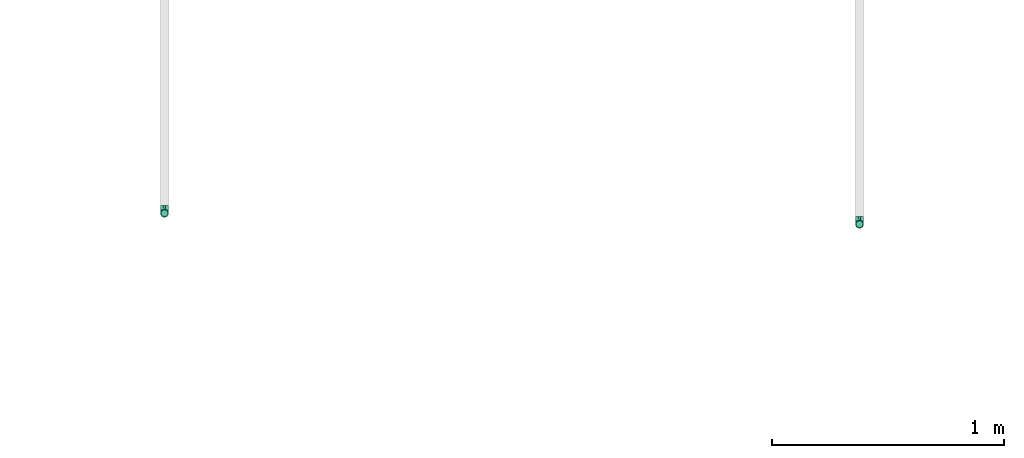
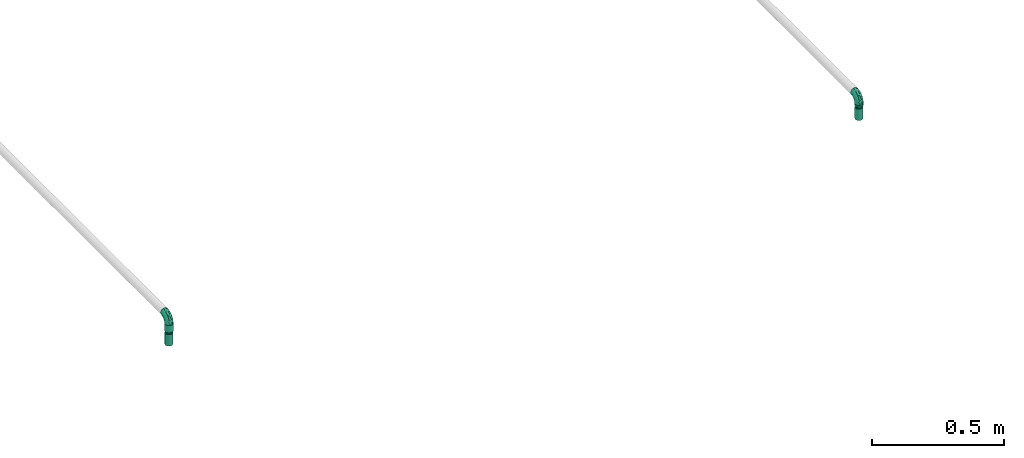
# One storey, part 13 of 32: 4 flow fittings, 2 flow segments, 2 flow terminals.
"""IFC2X3 building model written with IfcOpenShell, lengths in millimetres."""

from ifc_helpers import new_model, entity, si_unit, converted_unit, derived_unit, direction, frame, origin_with_axes, origin_2d_with_axis, place, context, subcontext, project, spatial, hollow_circle, extrude, open_shell, surface_model, source, transform, mapped, type_object, element, save


model = new_model("IFC2X3")

# Units and contexts
model_context = context("Model", 3, precision=0.01, world=frame((0.0, 4.29681676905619e-09, 0.0)), true_north=direction((4.01073788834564e-13, 1.0)))
plan_context = context("Plan", 3, precision=0.01, world=frame((0.0, 4.29681676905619e-09, 0.0)), true_north=direction((4.01073788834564e-13, 1.0)))
body_context = subcontext(model_context, "Body", "Model", "MODEL_VIEW")
ifc_project = project(units=[converted_unit("PLANEANGLEUNIT", "DEGREE", entity("IfcPositiveLengthMeasure", 0.0174532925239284), si_unit("PLANEANGLEUNIT", "RADIAN"), dimensions=[0, 0, 0, 0, 0, 0, 0]), si_unit("AREAUNIT", "SQUARE_METRE"), si_unit("LENGTHUNIT", "METRE", prefix="MILLI"), si_unit("MASSUNIT", "GRAM", prefix="KILO"), si_unit("POWERUNIT", "WATT"), si_unit("PRESSUREUNIT", "PASCAL", prefix="KILO"), si_unit("FORCEUNIT", "NEWTON", prefix="KILO"), si_unit("ELECTRICVOLTAGEUNIT", "VOLT"), si_unit("ELECTRICCURRENTUNIT", "AMPERE"), si_unit("THERMODYNAMICTEMPERATUREUNIT", "DEGREE_CELSIUS"), si_unit("TIMEUNIT", "SECOND"), si_unit("VOLUMEUNIT", "CUBIC_METRE"), derived_unit("LINEARVELOCITYUNIT", [(si_unit("LENGTHUNIT", "METRE"), 1), (si_unit("TIMEUNIT", "SECOND"), -1)]), derived_unit("VOLUMETRICFLOWRATEUNIT", [(si_unit("VOLUMEUNIT", "CUBIC_METRE"), 1), (si_unit("TIMEUNIT", "SECOND"), -1)]), derived_unit("THERMALTRANSMITTANCEUNIT", [(si_unit("POWERUNIT", "WATT"), 1), (si_unit("THERMODYNAMICTEMPERATUREUNIT", "KELVIN"), -1), (si_unit("AREAUNIT", "SQUARE_METRE"), -1)]), derived_unit("SOUNDPRESSUREUNIT", [(si_unit("PRESSUREUNIT", "PASCAL"), 1)])], contexts=[model_context, plan_context])

# Site, building, storey
site_placement = place(None, frame((0.0, -4.29681676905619e-09, 0.0), z_axis=(0.0, 0.0, 1.0), x_axis=(1.0, 0.0, 0.0)))
site = spatial("IfcSite", under=ifc_project, at=site_placement, CompositionType="ELEMENT")
building_placement = place(site_placement, frame((0.0, 4.29681676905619e-09, 0.0), z_axis=(0.0, 0.0, 1.0), x_axis=(1.0, 0.0, 0.0)))
building = spatial("IfcBuilding", under=site, at=building_placement, Name="mc-building", CompositionType="ELEMENT")
storey_placement = place(building_placement, frame((0.0, 0.0, 205200.0), z_axis=(0.0, 0.0, 1.0), x_axis=(1.0, 0.0, 0.0)))
storey = spatial("IfcBuildingStorey", under=building, at=storey_placement, Name="Nivå D + 1,2 m", CompositionType="ELEMENT", Elevation=205200.0)

# Flow fittings
pipe_fitting_type_1 = type_object("IfcPipeFittingType", Name="magi_pipe_fe_elbow_short_001", PredefinedType="BEND")
shared_shape_1 = source(origin_with_axes(), body_context, "Body", "SurfaceModel", [
    surface_model("IfcShellBasedSurfaceModel", [(-33.8, -11.9501, -11.9501), (-33.8, -14.63583, -8.45), (-33.8, -8.45, -14.63583), (-33.8, 0.0, -16.9), (-33.8, -4.37404, -16.32415), (-33.8, -16.32415, -4.37404), (-33.8, -16.9, 0.0), (-33.8, 11.9501, 11.9501), (-33.8, 14.63583, 8.45), (-33.8, 8.45, 14.63583), (-33.8, -11.9501, 11.9501), (-33.8, -8.45, 14.63583), (-33.8, -14.63583, 8.45), (-33.8, -16.32415, 4.37404), (-33.8, -4.37404, 16.32415), (-33.8, 0.0, 16.9), (-33.8, 16.9, 0.0), (-33.8, 16.32415, -4.37404), (-33.8, 16.32415, 4.37404), (-33.8, 4.37404, -16.32415), (-33.8, 8.45, -14.63583), (-33.8, 14.63583, -8.45), (-33.8, 11.9501, -11.9501), (-33.8, 4.37404, 16.32415), (-4.37404, 33.8, -16.32415), (16.9, 33.8, 0.0), (0.0, 33.8, -16.9), (-16.32415, 33.8, -4.37404), (-8.45, 33.8, -14.63583), (-14.63583, 33.8, -8.45), (-11.9501, 33.8, -11.9501), (16.32415, 33.8, 4.37404), (8.45, 33.8, -14.63583), (14.63583, 33.8, -8.45), (11.9501, 33.8, -11.9501), (4.37404, 33.8, -16.32415), (16.32415, 33.8, -4.37404), (-16.32415, 33.8, 4.37404), (-4.37404, 33.8, 16.32415), (-14.63583, 33.8, 8.45), (-8.45, 33.8, 14.63583), (-11.9501, 33.8, 11.9501), (14.63583, 33.8, 8.45), (8.45, 33.8, 14.63583), (11.9501, 33.8, 11.9501), (0.0, 33.8, 16.9), (4.37404, 33.8, 16.32415), (-16.9, 33.8, 0.0), (-24.79389, -13.12945, 9.48721), (-22.19287, -9.75018, 12.59315), (-24.09897, -14.97035, 0.0), (-14.93934, -10.76256, 8.5297), (-22.46095, -14.75051, 5.27077), (14.75051, 22.46094, 5.27077), (11.9251, 13.23888, 4.33236), (13.04069, 14.39795, 0.0), (7.71387, 13.68847, 11.55891), (9.75018, 22.19287, 12.59315), (4.10169, 13.0571, 14.04018), (-24.84007, -6.39063, 15.2048), (-25.81779, -2.23879, 16.61097), (-23.66549, 2.59054, 16.87119), (-26.50418, 14.06512, 11.08152), (-24.21253, 17.66365, 7.72657), (-29.58514, 15.86957, 7.00283), (-6.17382, -7.5455, 0.0), (-13.23888, -11.9251, 4.33236), (-14.39795, -13.04069, 0.0), (-17.81434, 18.87373, 11.97104), (-6.30846, 29.15138, 15.82987), (-2.31622, 25.28002, 16.85849), (-29.23923, 10.23435, 13.77053), (-1.45439, -2.85688, 7.61475), (-0.28326, 0.34872, 10.09509), (-5.74484, -4.04709, 10.4122), (-4.41137, 11.31918, 16.59407), (-8.39727, 3.10034, 15.7812), (-1.72649, 9.1306, 15.53089), (-17.39909, 24.75344, 7.64977), (-26.19233, 20.0512, 0.0), (-28.14518, 17.29657, 4.25857), (-26.05147, 6.6281, 15.96447), (-5.87354, 16.61944, 16.86968), (-12.51807, 12.51807, 16.48937), (-10.06312, 7.38516, 16.81295), (-3.01882, 3.01882, 13.81718), (-13.0571, -4.10169, 14.04018), (-16.82553, -0.15166, 16.38038), (10.76256, 14.93934, 8.5297), (13.12945, 24.79389, 9.48721), (6.39063, 24.84007, 15.2048), (2.23879, 25.81779, 16.61097), (-13.68847, -7.71387, 11.55891), (14.97035, 24.09897, 0.0), (-7.30894, 22.89991, 16.09489), (-10.67958, 26.17414, 14.008), (-12.78295, 18.26924, 15.06066), (-13.88562, 22.45231, 12.93244), (-18.04944, 15.16501, 14.04434), (-23.11658, 20.08178, 4.02986), (-21.84989, 21.84989, 0.0), (-18.55817, 25.48277, 3.93065), (-13.95142, 26.94732, 11.03289), (-18.57098, 7.23906, 16.59756), (-16.58335, 4.14122, 16.89279), (-17.96666, 11.46709, 15.63151), (-9.84453, 17.54304, 16.18938), (0.15166, 16.82553, 16.38038), (-23.27207, 11.47201, 14.23154), (3.84842, 5.86994, 10.70473), (-8.0212, -7.54413, 7.93275), (1.00345, -2.19508, 4.57414), (5.13203, 3.01004, 5.90201), (5.24161, 1.7543, 2.53265), (8.70457, 7.04947, 3.99182), (-20.0512, 26.19233, 0.0), (8.4852, 8.76699, 7.09296), (-4.55488, -6.72064, 4.90681), (2.05031, -2.05031, 0.0), (7.5455, 6.17382, 0.0), (-26.75399, 2.1369, -16.845), (-14.61995, 24.73803, -11.27736), (-28.45274, -13.45335, -9.81895), (-26.00469, 6.63555, -15.96645), (-23.06726, 20.04573, -4.26202), (-13.80647, -4.26506, -14.17873), (-14.67501, -0.21081, -16.07388), (-6.7902, -0.2828, -13.8478), (-24.53586, 11.08096, -14.13417), (-26.72048, 14.00837, -11.05776), (10.0967, 24.44989, -12.75976), (5.83237, 21.40218, -15.03047), (6.66249, 28.54238, -15.38093), (-20.38182, 15.48705, -12.74596), (12.53268, 21.23441, -9.15363), (12.54494, 15.67504, -5.54878), (9.7522, 12.89279, -8.66343), (-15.65186, 19.64213, -13.01327), (-12.03528, 20.66498, -14.67665), (-15.61907, 15.61906, -14.83879), (-25.56551, -15.26206, 0.0), (-24.65452, -15.12934, -5.50955), (13.45335, 28.45274, -9.81895), (15.12934, 24.65452, -5.50955), (-7.35442, -8.31014, -5.65563), (-15.67504, -12.54494, -5.54878), (-24.44989, -10.0967, -12.75976), (0.16522, 0.41303, -9.71728), (-5.70658, -5.33066, -8.89288), (-5.13869, -2.37198, -11.53565), (-21.23441, -12.53268, -9.15363), (0.71146, 7.93863, -14.09382), (0.21081, 14.67501, -16.07388), (3.49291, 14.42772, -14.76381), (-24.89911, -2.13088, -16.591), (-28.54238, -6.66249, -15.38093), (-18.44386, -7.71663, -13.26957), (2.13088, 24.89911, -16.591), (-28.64342, 17.44413, -2.89318), (1.70017, -1.28722, -5.09504), (-16.57067, 26.81947, -7.36596), (-17.69055, 27.4263, -3.76405), (-12.89279, -9.7522, -8.66343), (-5.96611, 5.96611, -15.95814), (-20.53709, 20.09345, -8.28985), (-2.1369, 26.75399, -16.845), (-6.89872, 24.58781, -16.02578), (-10.60739, 26.53157, -13.98044), (-21.40218, -5.83237, -15.03047), (2.93192, 5.89627, -11.55917), (6.89393, 12.61842, -11.82233), (5.58056, 5.95325, -8.79455), (-3.99512, 18.61798, -16.89635), (8.31014, 7.35442, -5.65563), (-9.1383, 9.86148, -16.89041), (-9.99983, 16.02119, -16.39699), (-16.68576, 9.78031, -16.34199), (-27.01915, 16.61158, -7.12979), (15.26206, 25.56551, 0.0), (-18.61798, 3.99512, -16.89635), (-19.37495, 27.82495, 0.0), (-12.61842, -6.89393, -11.82233), (-18.84705, 19.14018, -10.96545)], [open_shell([[[0, 1, 2]], [[3, 4, 2]], [[5, 6, 1]], [[7, 8, 9]], [[10, 11, 12]], [[13, 12, 11]], [[14, 15, 11]], [[16, 17, 18]], [[3, 6, 19]], [[20, 19, 17]], [[20, 17, 21]], [[22, 20, 21]], [[17, 19, 6]], [[2, 1, 6]], [[2, 6, 3]], [[6, 18, 17]], [[23, 18, 6]], [[8, 18, 23]], [[8, 23, 9]], [[13, 23, 6]], [[23, 13, 11]], [[11, 15, 23]], [[24, 25, 26]], [[27, 24, 28]], [[29, 27, 28]], [[29, 28, 30]], [[31, 25, 24]], [[32, 33, 34]], [[32, 35, 26]], [[33, 25, 36]], [[33, 32, 26]], [[25, 33, 26]], [[24, 27, 37]], [[31, 24, 37]], [[38, 37, 39]], [[40, 38, 39]], [[40, 39, 41]], [[31, 37, 38]], [[42, 43, 44]], [[43, 42, 31]], [[43, 45, 46]], [[43, 31, 38]], [[38, 45, 43]], [[37, 27, 47]], [[10, 48, 49]], [[13, 6, 50]], [[51, 48, 52]], [[53, 54, 55]], [[48, 10, 12]], [[13, 52, 12]], [[56, 57, 58]], [[49, 11, 10]], [[49, 59, 11]], [[15, 60, 61]], [[62, 63, 64]], [[65, 66, 67]], [[57, 44, 43]], [[62, 68, 63]], [[38, 69, 70]], [[9, 71, 7]], [[14, 60, 15]], [[72, 73, 74]], [[75, 76, 77]], [[7, 62, 8]], [[39, 37, 78]], [[79, 16, 80]], [[64, 18, 8]], [[15, 61, 23]], [[23, 81, 9]], [[82, 83, 84]], [[74, 85, 86]], [[59, 86, 87]], [[88, 89, 57]], [[90, 43, 46]], [[42, 53, 31]], [[46, 45, 91]], [[54, 53, 88]], [[42, 89, 53]], [[92, 86, 49]], [[89, 42, 44]], [[11, 59, 14]], [[53, 55, 93]], [[93, 31, 53]], [[66, 52, 67]], [[94, 82, 70]], [[95, 96, 94]], [[97, 98, 96]], [[79, 99, 100]], [[40, 41, 95]], [[101, 100, 99]], [[68, 78, 63]], [[38, 40, 69]], [[16, 18, 80]], [[95, 94, 69]], [[78, 101, 99]], [[41, 102, 95]], [[70, 45, 38]], [[97, 95, 102]], [[13, 50, 52]], [[90, 57, 43]], [[57, 90, 58]], [[81, 23, 61]], [[103, 104, 84]], [[105, 81, 103]], [[41, 39, 102]], [[106, 96, 83]], [[94, 106, 82]], [[91, 70, 107]], [[71, 62, 7]], [[62, 108, 98]], [[86, 59, 49]], [[67, 52, 50]], [[60, 59, 87]], [[92, 49, 51]], [[86, 85, 76]], [[91, 90, 46]], [[25, 31, 93]], [[107, 77, 58]], [[107, 58, 90]], [[58, 85, 109]], [[110, 74, 92]], [[72, 74, 110]], [[66, 51, 52]], [[72, 111, 112]], [[113, 114, 112]], [[56, 88, 57]], [[52, 48, 12]], [[49, 48, 51]], [[57, 89, 44]], [[53, 89, 88]], [[103, 81, 61]], [[71, 81, 108]], [[18, 64, 80]], [[63, 78, 99]], [[47, 115, 101]], [[101, 115, 100]], [[39, 78, 102]], [[68, 102, 78]], [[97, 96, 95]], [[105, 98, 108]], [[103, 84, 83]], [[107, 70, 82]], [[76, 84, 87]], [[82, 84, 75]], [[70, 91, 45]], [[90, 91, 107]], [[59, 60, 14]], [[61, 60, 87]], [[73, 85, 74]], [[109, 112, 116]], [[103, 61, 104]], [[105, 103, 83]], [[96, 105, 83]], [[81, 105, 108]], [[96, 98, 105]], [[62, 98, 68]], [[61, 87, 104]], [[87, 84, 104]], [[86, 76, 87]], [[77, 76, 85]], [[58, 77, 85]], [[75, 77, 107]], [[82, 75, 107]], [[76, 75, 84]], [[81, 71, 9]], [[62, 71, 108]], [[95, 69, 40]], [[70, 69, 94]], [[62, 64, 8]], [[80, 63, 99]], [[63, 80, 64]], [[80, 99, 79]], [[66, 65, 117]], [[110, 66, 117]], [[112, 114, 116]], [[118, 117, 65]], [[110, 92, 51]], [[112, 111, 113]], [[119, 55, 54]], [[74, 86, 92]], [[58, 109, 56]], [[116, 56, 109]], [[66, 110, 51]], [[72, 110, 117]], [[111, 72, 117]], [[73, 112, 109]], [[117, 118, 111]], [[113, 111, 118]], [[118, 119, 113]], [[114, 119, 54]], [[119, 114, 113]], [[116, 54, 88]], [[54, 116, 114]], [[116, 88, 56]], [[112, 73, 72]], [[85, 73, 109]], [[78, 37, 101]], [[47, 101, 37]], [[102, 68, 97]], [[97, 68, 98]], [[82, 106, 83]], [[94, 96, 106]], [[19, 120, 3]], [[29, 30, 121]], [[0, 122, 1]], [[20, 123, 19]], [[100, 124, 79]], [[125, 126, 127]], [[128, 22, 129]], [[130, 131, 132]], [[128, 129, 133]], [[134, 135, 136]], [[137, 138, 139]], [[128, 20, 22]], [[67, 140, 141]], [[134, 142, 143]], [[141, 5, 1]], [[144, 65, 145]], [[146, 0, 2]], [[147, 148, 149]], [[145, 141, 150]], [[151, 152, 153]], [[154, 4, 3]], [[2, 155, 146]], [[150, 146, 156]], [[155, 2, 4]], [[143, 135, 134]], [[35, 157, 26]], [[16, 79, 158]], [[148, 159, 144]], [[160, 161, 27]], [[145, 162, 144]], [[163, 152, 151]], [[27, 29, 160]], [[121, 164, 160]], [[32, 34, 130]], [[26, 165, 24]], [[24, 165, 166]], [[142, 34, 33]], [[30, 28, 167]], [[124, 161, 164]], [[157, 35, 132]], [[155, 154, 168]], [[123, 20, 128]], [[169, 170, 171]], [[172, 157, 152]], [[24, 166, 28]], [[132, 35, 32]], [[142, 130, 34]], [[168, 154, 126]], [[136, 135, 173]], [[133, 137, 139]], [[22, 21, 129]], [[170, 131, 130]], [[33, 36, 143]], [[172, 174, 175]], [[176, 123, 128]], [[158, 177, 17]], [[135, 55, 119]], [[167, 28, 166]], [[175, 166, 172]], [[137, 167, 138]], [[122, 141, 1]], [[140, 6, 5]], [[36, 25, 178]], [[170, 130, 134]], [[152, 157, 131]], [[165, 157, 172]], [[153, 170, 151]], [[152, 163, 174]], [[168, 125, 156]], [[122, 146, 150]], [[120, 154, 3]], [[179, 174, 126]], [[179, 126, 154]], [[126, 163, 127]], [[162, 145, 150]], [[140, 5, 141]], [[36, 178, 143]], [[55, 143, 178]], [[177, 129, 21]], [[128, 133, 139]], [[176, 128, 139]], [[120, 123, 179]], [[121, 160, 29]], [[161, 100, 180]], [[166, 175, 138]], [[121, 30, 167]], [[161, 47, 27]], [[79, 124, 158]], [[124, 164, 177]], [[161, 124, 100]], [[136, 171, 170]], [[127, 163, 151]], [[147, 171, 159]], [[148, 144, 162]], [[127, 151, 169]], [[127, 181, 125]], [[129, 177, 164]], [[21, 17, 177]], [[159, 65, 144]], [[67, 141, 145]], [[143, 55, 135]], [[135, 119, 173]], [[123, 120, 19]], [[154, 120, 179]], [[157, 165, 26]], [[166, 165, 172]], [[172, 152, 174]], [[176, 139, 175]], [[126, 174, 163]], [[176, 174, 179]], [[174, 176, 175]], [[123, 176, 179]], [[150, 181, 162]], [[127, 149, 181]], [[181, 148, 162]], [[159, 148, 147]], [[171, 136, 173]], [[170, 134, 136]], [[159, 171, 173]], [[171, 147, 169]], [[169, 147, 149]], [[151, 170, 169]], [[164, 182, 129]], [[182, 121, 137]], [[181, 149, 148]], [[169, 149, 127]], [[182, 137, 133]], [[167, 137, 121]], [[166, 138, 167]], [[175, 139, 138]], [[129, 182, 133]], [[121, 182, 164]], [[161, 160, 164]], [[47, 161, 180]], [[177, 158, 124]], [[16, 158, 17]], [[130, 132, 32]], [[157, 132, 131]], [[143, 142, 33]], [[130, 142, 134]], [[154, 155, 4]], [[146, 155, 168]], [[146, 122, 0]], [[141, 122, 150]], [[152, 131, 153]], [[159, 119, 118]], [[67, 145, 65]], [[170, 153, 131]], [[119, 159, 173]], [[159, 118, 65]], [[156, 125, 181]], [[126, 125, 168]], [[150, 156, 181]], [[168, 156, 146]]])]),
])
for number, where, z_axis, x_axis, name in (
    (1, (335492.5, 460325.93146, 4444.43145999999), (1.0, 0.0, 0.0), (0.0, -1.0, 0.0), "magi_pipe_fe_elbow_short_001"),
    (2, (332502.5, 460373.43146, 4444.43145999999), (1.0, 0.0, 0.0), (0.0, -1.0, 0.0), "magi_pipe_fe_elbow_short_001"),
):
    element("IfcFlowFitting", number, at=place(storey_placement, frame(where, z_axis=z_axis, x_axis=x_axis)), inside=storey, type_object=pipe_fitting_type_1, Name=name, context=body_context, shape_type="MappedRepresentation", body=[
        mapped(shared_shape_1, transform((0.0, 0.0, 0.0), scale=1.0)),
    ])
pipe_fitting_type_2 = type_object("IfcPipeFittingType", Name="magi_pipe_fe_reducer_centric_short_001", PredefinedType="TRANSITION")
shared_shape_2 = source(origin_with_axes(), body_context, "Body", "SurfaceModel", [
    surface_model("IfcShellBasedSurfaceModel", [(-2.0, 11.9501, 11.9501), (-2.0, 0.0, 16.9), (-2.0, 4.37404, 16.32415), (-2.0, 8.45, 14.63583), (-2.0, 14.63583, 8.45), (-2.0, 16.32415, 4.37404), (-2.0, -16.32415, 4.37404), (-2.0, -8.45, 14.63583), (-2.0, -14.63583, 8.45), (-2.0, -11.9501, 11.9501), (-2.0, -4.37404, 16.32415), (-2.0, -16.32415, -4.37404), (-2.0, -16.9, 0.0), (-2.0, -8.45, -14.63583), (-2.0, 16.32415, -4.37404), (-2.0, 11.9501, -11.9501), (-2.0, 14.63583, -8.45), (-2.0, 8.45, -14.63583), (-2.0, 4.37404, -16.32415), (-2.0, 0.0, -16.9), (-2.0, -11.9501, -11.9501), (-2.0, -14.63583, -8.45), (-2.0, -4.37404, -16.32415), (-2.0, 16.9, 0.0), (0.0, 4.37404, -16.32415), (0.0, 8.45, -14.63583), (0.0, 11.9501, -11.9501), (0.0, 0.0, -16.9), (0.0, 16.32415, -4.37404), (0.0, 16.32415, 4.37404), (0.0, 14.63583, -8.45), (0.0, -8.45, -14.63583), (0.0, -4.37404, -16.32415), (0.0, -11.9501, -11.9501), (0.0, -16.32415, -4.37404), (0.0, -14.63583, -8.45), (0.0, -16.32415, 4.37404), (0.0, 16.9, 0.0), (0.0, 14.63583, 8.45), (0.0, 11.9501, 11.9501), (0.0, 4.37404, 16.32415), (0.0, 8.45, 14.63583), (0.0, 0.0, 16.9), (0.0, -14.63583, 8.45), (0.0, -16.9, 0.0), (0.0, -8.45, 14.63583), (0.0, -11.9501, 11.9501), (0.0, -4.37404, 16.32415), (14.4, 5.35, -9.26647), (14.4, 0.0, -10.7), (14.4, 2.76936, -10.33541), (14.4, 10.33541, -2.76936), (14.4, 7.56604, -7.56604), (14.4, -5.35, -9.26647), (14.4, 9.26647, -5.35), (14.4, -9.26647, 5.35), (14.4, -2.76936, -10.33541), (14.4, -7.56604, -7.56604), (14.4, -10.33541, -2.76936), (14.4, -9.26647, -5.35), (14.4, 10.33541, 2.76936), (14.4, 10.7, 0.0), (14.4, 9.26647, 5.35), (14.4, 7.56604, 7.56604), (14.4, 2.76936, 10.33541), (14.4, 0.0, 10.7), (14.4, 5.35, 9.26647), (14.4, -10.33541, 2.76936), (14.4, -10.7, 0.0), (14.4, -7.56604, 7.56604), (14.4, -2.76936, 10.33541), (14.4, -5.35, 9.26647), (12.4, 0.0, 10.7), (12.4, 2.76936, 10.33541), (12.4, 5.35, 9.26647), (12.4, 7.56604, 7.56604), (12.4, 9.26647, 5.35), (12.4, 10.33541, 2.76936), (12.4, -10.33541, 2.76936), (12.4, 10.33541, -2.76936), (12.4, -2.76936, 10.33541), (12.4, -7.56604, 7.56604), (12.4, -5.35, 9.26647), (12.4, -9.26647, 5.35), (12.4, -10.33541, -2.76936), (12.4, -10.7, 0.0), (12.4, 2.76936, -10.33541), (12.4, 9.26647, -5.35), (12.4, 7.56604, -7.56604), (12.4, 5.35, -9.26647), (12.4, -7.56604, -7.56604), (12.4, -9.26647, -5.35), (12.4, -5.35, -9.26647), (12.4, 0.0, -10.7), (12.4, -2.76936, -10.33541), (12.4, 10.7, 0.0), (12.4, 9.3625, -2.31662), (0.0, 14.42505, -5.97505), (0.0, 15.66253, -2.98753), (12.4, -6.6875, -6.94985), (0.0, -13.18758, -8.96258), (0.0, 2.98753, -15.66253), (12.4, 0.0, -9.26647), (12.4, 6.6875, -6.94985), (0.0, 8.96258, -13.18758), (12.4, -9.3625, -2.31662), (0.0, -15.66253, -2.98753), (0.0, -14.42505, -5.97505), (0.0, 5.97505, -14.42505), (0.0, -2.98753, -15.66253), (0.0, -8.96258, -13.18758), (0.0, 13.18758, -8.96258), (12.4, 8.025, -4.63324), (12.4, -2.675, -9.26647), (12.4, 2.675, -9.26647), (0.0, -5.97505, -14.42505), (12.4, -8.025, -4.63324), (12.4, -9.3625, 2.31662), (0.0, -14.42505, 5.97505), (0.0, -15.66253, 2.98753), (12.4, 6.6875, 6.94985), (0.0, 13.18758, 8.96258), (0.0, -2.98753, 15.66253), (12.4, 0.0, 9.26647), (12.4, -6.6875, 6.94985), (0.0, -8.96258, 13.18758), (12.4, 9.3625, 2.31662), (0.0, 15.66253, 2.98753), (0.0, 14.42505, 5.97505), (0.0, -5.97505, 14.42505), (0.0, 2.98753, 15.66253), (0.0, 8.96258, 13.18758), (0.0, -13.18758, 8.96258), (12.4, -8.025, 4.63324), (12.4, 2.675, 9.26647), (12.4, -2.675, 9.26647), (0.0, 5.97505, 14.42505), (12.4, 8.025, 4.63324)], [open_shell([[[0, 1, 2]], [[0, 2, 3]], [[0, 4, 5]], [[0, 5, 1]], [[1, 5, 6]], [[7, 8, 9]], [[7, 10, 1]], [[8, 7, 1]], [[1, 6, 8]], [[6, 11, 12]], [[6, 5, 13]], [[5, 14, 15]], [[15, 14, 16]], [[15, 17, 18]], [[13, 5, 15]], [[19, 15, 18]], [[11, 20, 21]], [[20, 11, 13]], [[13, 19, 22]], [[11, 6, 13]], [[15, 19, 13]], [[5, 23, 14]], [[24, 25, 26]], [[27, 24, 26]], [[26, 28, 29]], [[28, 26, 30]], [[26, 29, 31]], [[27, 31, 32]], [[27, 26, 31]], [[33, 34, 35]], [[34, 33, 31]], [[31, 36, 34]], [[29, 28, 37]], [[29, 38, 39]], [[29, 39, 40]], [[40, 36, 31]], [[40, 39, 41]], [[36, 40, 42]], [[42, 43, 36]], [[44, 34, 36]], [[43, 45, 46]], [[43, 42, 45]], [[45, 42, 47]], [[31, 29, 40]], [[11, 34, 12]], [[21, 35, 11]], [[31, 20, 13]], [[21, 20, 33]], [[32, 13, 22]], [[11, 35, 34]], [[34, 44, 12]], [[32, 31, 13]], [[33, 20, 31]], [[33, 35, 21]], [[27, 32, 22]], [[22, 19, 27]], [[18, 24, 19]], [[17, 25, 18]], [[30, 15, 16]], [[17, 15, 26]], [[28, 16, 14]], [[17, 26, 25]], [[25, 24, 18]], [[37, 28, 14]], [[30, 16, 28]], [[30, 26, 15]], [[23, 37, 14]], [[19, 24, 27]], [[5, 29, 23]], [[4, 38, 5]], [[41, 0, 3]], [[4, 0, 39]], [[40, 3, 2]], [[5, 38, 29]], [[29, 37, 23]], [[40, 41, 3]], [[39, 0, 41]], [[39, 38, 4]], [[42, 40, 2]], [[2, 1, 42]], [[10, 47, 1]], [[7, 45, 10]], [[43, 9, 8]], [[7, 9, 46]], [[36, 8, 6]], [[7, 46, 45]], [[45, 47, 10]], [[44, 36, 6]], [[43, 8, 36]], [[43, 46, 9]], [[12, 44, 6]], [[1, 47, 42]], [[33, 44, 27]], [[48, 49, 50]], [[51, 48, 52]], [[53, 48, 51]], [[51, 52, 54]], [[55, 53, 51]], [[49, 53, 56]], [[49, 48, 53]], [[57, 58, 59]], [[58, 57, 53]], [[53, 55, 58]], [[60, 51, 61]], [[60, 62, 63]], [[51, 63, 55]], [[64, 65, 63]], [[64, 63, 66]], [[55, 63, 65]], [[58, 67, 68]], [[55, 67, 58]], [[69, 70, 71]], [[70, 69, 55]], [[65, 70, 55]], [[51, 60, 63]], [[72, 73, 74]], [[72, 74, 75]], [[75, 76, 77]], [[72, 75, 78]], [[79, 78, 75]], [[80, 81, 82]], [[81, 80, 78]], [[81, 78, 83]], [[80, 72, 78]], [[78, 84, 85]], [[79, 75, 77]], [[84, 78, 79]], [[86, 79, 87]], [[88, 89, 86]], [[88, 86, 87]], [[84, 79, 86]], [[84, 90, 91]], [[90, 84, 92]], [[92, 93, 94]], [[92, 84, 86]], [[86, 93, 92]], [[79, 77, 95]], [[84, 58, 85]], [[91, 59, 84]], [[53, 90, 92]], [[91, 90, 57]], [[56, 92, 94]], [[84, 59, 58]], [[58, 68, 85]], [[56, 53, 92]], [[57, 90, 53]], [[57, 59, 91]], [[49, 56, 94]], [[94, 93, 49]], [[86, 50, 93]], [[89, 48, 86]], [[54, 88, 87]], [[89, 88, 52]], [[51, 87, 79]], [[89, 52, 48]], [[48, 50, 86]], [[61, 51, 79]], [[54, 87, 51]], [[54, 52, 88]], [[95, 61, 79]], [[93, 50, 49]], [[77, 60, 95]], [[76, 62, 77]], [[66, 75, 74]], [[76, 75, 63]], [[64, 74, 73]], [[77, 62, 60]], [[60, 61, 95]], [[64, 66, 74]], [[63, 75, 66]], [[63, 62, 76]], [[65, 64, 73]], [[73, 72, 65]], [[80, 70, 72]], [[82, 71, 80]], [[55, 81, 83]], [[82, 81, 69]], [[67, 83, 78]], [[82, 69, 71]], [[71, 70, 80]], [[68, 67, 78]], [[55, 83, 67]], [[55, 69, 81]], [[85, 68, 78]], [[72, 70, 65]], [[74, 82, 95]], [[95, 82, 92]], [[92, 89, 95]], [[92, 82, 85]], [[42, 39, 44]], [[44, 46, 42]], [[39, 26, 44]], [[27, 44, 26]], [[26, 39, 37]], [[96, 97, 98]], [[33, 99, 100]], [[101, 102, 27]], [[98, 37, 95]], [[26, 103, 104]], [[104, 103, 89]], [[105, 106, 107]], [[89, 108, 104]], [[102, 109, 27]], [[110, 99, 33]], [[95, 96, 98]], [[103, 111, 112]], [[109, 102, 113]], [[85, 44, 106]], [[102, 101, 114]], [[110, 115, 92]], [[96, 112, 97]], [[107, 116, 105]], [[85, 106, 105]], [[113, 115, 109]], [[92, 115, 113]], [[116, 107, 100]], [[108, 89, 114]], [[111, 103, 26]], [[111, 97, 112]], [[99, 110, 92]], [[116, 100, 99]], [[101, 108, 114]], [[117, 118, 119]], [[39, 120, 121]], [[122, 123, 42]], [[119, 44, 85]], [[46, 124, 125]], [[125, 124, 82]], [[126, 127, 128]], [[82, 129, 125]], [[123, 130, 42]], [[131, 120, 39]], [[85, 117, 119]], [[124, 132, 133]], [[130, 123, 134]], [[95, 37, 127]], [[123, 122, 135]], [[131, 136, 74]], [[117, 133, 118]], [[128, 137, 126]], [[95, 127, 126]], [[134, 136, 130]], [[74, 136, 134]], [[137, 128, 121]], [[129, 82, 135]], [[132, 124, 46]], [[132, 118, 133]], [[120, 131, 74]], [[137, 121, 120]], [[122, 129, 135]]])]),
])
for number, where, z_axis, x_axis, name in (
    (3, (335492.5, 460325.93146, 4402.78346000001), (1.0, 0.0, 0.0), (0.0, 0.0, -1.0), "magi_pipe_fe_reducer_centric_short_001"),
    (4, (332502.5, 460373.43146, 4377.78346000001), (1.0, 0.0, 0.0), (0.0, 0.0, -1.0), "magi_pipe_fe_reducer_centric_short_001"),
):
    element("IfcFlowFitting", number, at=place(storey_placement, frame(where, z_axis=z_axis, x_axis=x_axis)), inside=storey, type_object=pipe_fitting_type_2, Name=name, context=body_context, shape_type="MappedRepresentation", body=[
        mapped(shared_shape_2, transform((0.0, 0.0, 0.0), scale=1.0)),
    ])

# Flow segments
pipe_segment_type = type_object("IfcPipeSegmentType", Name="Stålrør normaltykke", PredefinedType="RIGIDSEGMENT")
shared_shape_3 = source(origin_with_axes(), body_context, "Body", "SweptSolid", [
    extrude(hollow_circle(Radius=16.9, WallThickness=2.0, at=origin_2d_with_axis()), frame((0.0, 0.0, 0.0), z_axis=(1.0, 0.0, 0.0), x_axis=(0.0, 1.0, 0.0)), (0.0, 0.0, 1.0), 7.8),
])
flow_segment_1_placement = place(storey_placement, frame((335492.5, 460325.93146, 4410.63146), z_axis=(-1.0, 0.0, 0.0), x_axis=(0.0, 0.0, -1.0)))
element("IfcFlowSegment", 5, at=flow_segment_1_placement, inside=storey, type_object=pipe_segment_type, Name="Stålrør normaltykke", context=body_context, shape_type="MappedRepresentation", body=[
    mapped(shared_shape_3, transform((0.0, 0.0, 0.0), scale=1.0)),
])
shared_shape_4 = source(origin_with_axes(), body_context, "Body", "SweptSolid", [
    extrude(hollow_circle(Radius=16.9, WallThickness=2.0, at=origin_2d_with_axis()), frame((0.0, 0.0, 0.0), z_axis=(1.0, 0.0, 0.0), x_axis=(0.0, 1.0, 0.0)), (0.0, 0.0, 1.0), 32.8),
])
flow_segment_2_placement = place(storey_placement, frame((332502.5, 460373.43146, 4410.63146), z_axis=(-1.0, 0.0, 0.0), x_axis=(0.0, 0.0, -1.0)))
element("IfcFlowSegment", 6, at=flow_segment_2_placement, inside=storey, type_object=pipe_segment_type, Name="Stålrør normaltykke", context=body_context, shape_type="MappedRepresentation", body=[
    mapped(shared_shape_4, transform((0.0, 0.0, 0.0), scale=1.0)),
])

# Flow terminals
fire_suppression_terminal_type = type_object("IfcFireSuppressionTerminalType", Name="SP-15-K80-68DGR-STD-NEDOVER", PredefinedType="NOTDEFINED")
shared_shape_5 = source(origin_with_axes(), body_context, "Body", "SurfaceModel", [
    surface_model("IfcShellBasedSurfaceModel", [(4.1411, -15.45481, 53.0), (8.0, -13.85641, 53.0), (11.31371, -11.31371, 53.0), (-8.0, -13.85641, 53.0), (15.45481, -4.1411, 53.0), (16.0, 0.0, 53.0), (13.85641, -8.0, 53.0), (0.0, -16.0, 53.0), (-4.1411, -15.45481, 53.0), (-13.85641, -8.0, 53.0), (-11.31371, -11.31371, 53.0), (-15.45481, -4.1411, 53.0), (15.45481, 4.1411, 53.0), (13.85641, 8.0, 53.0), (11.31371, 11.31371, 53.0), (-4.1411, 15.45481, 53.0), (8.0, 13.85641, 53.0), (4.1411, 15.45481, 53.0), (0.0, 16.0, 53.0), (-13.85641, 8.0, 53.0), (-15.45481, 4.1411, 53.0), (-16.0, 0.0, 53.0), (-11.31371, 11.31371, 53.0), (-8.0, 13.85641, 53.0), (0.0, 16.0, 0.0), (4.1411, 15.45481, 0.0), (8.0, 13.85641, 0.0), (-4.1411, 15.45481, 0.0), (11.31371, 11.31371, 0.0), (13.85641, 8.0, 0.0), (15.45481, 4.1411, 0.0), (-15.45481, -4.1411, 0.0), (-11.31371, 11.31371, 0.0), (-8.0, 13.85641, 0.0), (-13.85641, 8.0, 0.0), (-15.45481, 4.1411, 0.0), (-16.0, 0.0, 0.0), (4.1411, -15.45481, 0.0), (16.0, 0.0, 0.0), (15.45481, -4.1411, 0.0), (13.85641, -8.0, 0.0), (11.31371, -11.31371, 0.0), (8.0, -13.85641, 0.0), (-8.0, -13.85641, 0.0), (-13.85641, -8.0, 0.0), (-11.31371, -11.31371, 0.0), (0.0, -16.0, 0.0), (-4.1411, -15.45481, 0.0)], [open_shell([[[0, 1, 2]], [[3, 0, 2]], [[4, 5, 2]], [[4, 2, 6]], [[3, 2, 5]], [[7, 3, 8]], [[7, 0, 3]], [[3, 9, 10]], [[9, 3, 11]], [[5, 11, 3]], [[5, 12, 11]], [[12, 13, 14]], [[15, 12, 14]], [[16, 17, 18]], [[14, 16, 15]], [[18, 15, 16]], [[11, 19, 20]], [[21, 11, 20]], [[22, 15, 23]], [[15, 22, 19]], [[19, 11, 15]], [[11, 12, 15]], [[24, 25, 26]], [[27, 24, 26]], [[28, 29, 30]], [[27, 26, 28]], [[27, 28, 31]], [[27, 32, 33]], [[32, 27, 34]], [[34, 31, 35]], [[31, 34, 27]], [[35, 31, 36]], [[28, 30, 31]], [[37, 38, 39]], [[37, 39, 40]], [[41, 42, 37]], [[41, 37, 40]], [[38, 37, 43]], [[44, 43, 45]], [[43, 44, 31]], [[43, 46, 47]], [[43, 31, 38]], [[37, 46, 43]], [[38, 31, 30]], [[11, 31, 44]], [[45, 9, 44]], [[3, 43, 47]], [[45, 43, 10]], [[8, 47, 46]], [[31, 21, 36]], [[31, 11, 21]], [[44, 9, 11]], [[45, 10, 9]], [[3, 10, 43]], [[47, 8, 3]], [[46, 7, 8]], [[0, 37, 42]], [[41, 1, 42]], [[6, 40, 39]], [[41, 40, 2]], [[4, 39, 38]], [[37, 0, 7]], [[42, 1, 0]], [[41, 2, 1]], [[40, 6, 2]], [[4, 6, 39]], [[38, 5, 4]], [[37, 7, 46]], [[12, 38, 30]], [[13, 30, 29]], [[16, 26, 25]], [[17, 25, 24]], [[30, 13, 12]], [[12, 5, 38]], [[28, 14, 13]], [[28, 26, 14]], [[14, 26, 16]], [[25, 17, 16]], [[28, 13, 29]], [[24, 18, 17]], [[15, 27, 33]], [[32, 23, 33]], [[19, 34, 35]], [[32, 34, 22]], [[20, 35, 36]], [[27, 15, 18]], [[33, 23, 15]], [[32, 22, 23]], [[34, 19, 22]], [[20, 19, 35]], [[36, 21, 20]], [[27, 18, 24]]])]),
])
for number, where, z_axis, x_axis in (
    (7, (335492.5, 460325.93146, 4393.43145999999), (0.0, 0.0, -1.0), (1.0, 0.0, 0.0)),
    (8, (332502.5, 460373.43146, 4368.43145999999), (0.0, 0.0, -1.0), (1.0, 0.0, 0.0)),
):
    element("IfcFlowTerminal", number, at=place(storey_placement, frame(where, z_axis=z_axis, x_axis=x_axis)), inside=storey, type_object=fire_suppression_terminal_type, Name="SP-15-K80-68DGR-STD-NEDOVER", context=body_context, shape_type="MappedRepresentation", body=[
        mapped(shared_shape_5, transform((0.0, 0.0, 0.0), scale=1.0)),
    ])

save(model, "model.ifc")
